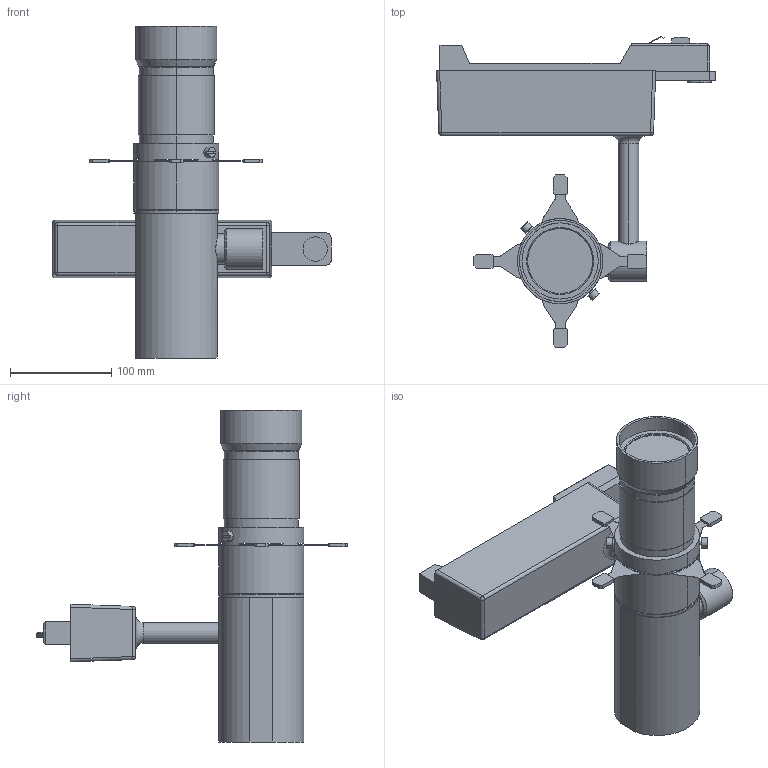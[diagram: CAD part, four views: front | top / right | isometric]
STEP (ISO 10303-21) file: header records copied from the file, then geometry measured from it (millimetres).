
FILE_DESCRIPTION (( 'STEP AP203' ), '1' );
FILE_NAME ('P1L (Track_Top Mount)_Hanging+19D_10-06-2026.STEP', '2026-06-10T07:45:19', ( '' ), ( '' ), 'SwSTEP 2.0', 'SolidWorks 2014', '' );
FILE_SCHEMA (( 'CONFIG_CONTROL_DESIGN' ));
Length unit declared in the file: millimetre
Products named in the file (4): P1L - Light Body; 19D_Fresnel Lens_P1L.; P1L (Track_Top Mount)_Hanging+19D_10-06-2026; Top Mount_Yoke+PSU_(Track)
Assembly tree (3 placements, depth 2):
  P1L (Track_Top Mount)_Hanging+19D_10-06-2026
    Top Mount_Yoke+PSU_(Track)
    P1L - Light Body
    19D_Fresnel Lens_P1L.
Bounding box: 275.04 x 306.96 x 327.5 mm (x, y, z)
Volume: 2531153.9 mm3; surface area: 217716.5 mm2
Topology: 3 solids, 3 shells, 313 faces, 816 edges, 522 vertices
Faces by surface type: plane 202, cylinder 89, cone 16, sphere 4, torus 2
Entity records: 10160 total; most frequent: CARTESIAN_POINT 1915, DIRECTION 1658, ORIENTED_EDGE 1624, EDGE_CURVE 812, LINE 576, VECTOR 576, AXIS2_PLACEMENT_3D 541, VERTEX_POINT 522
